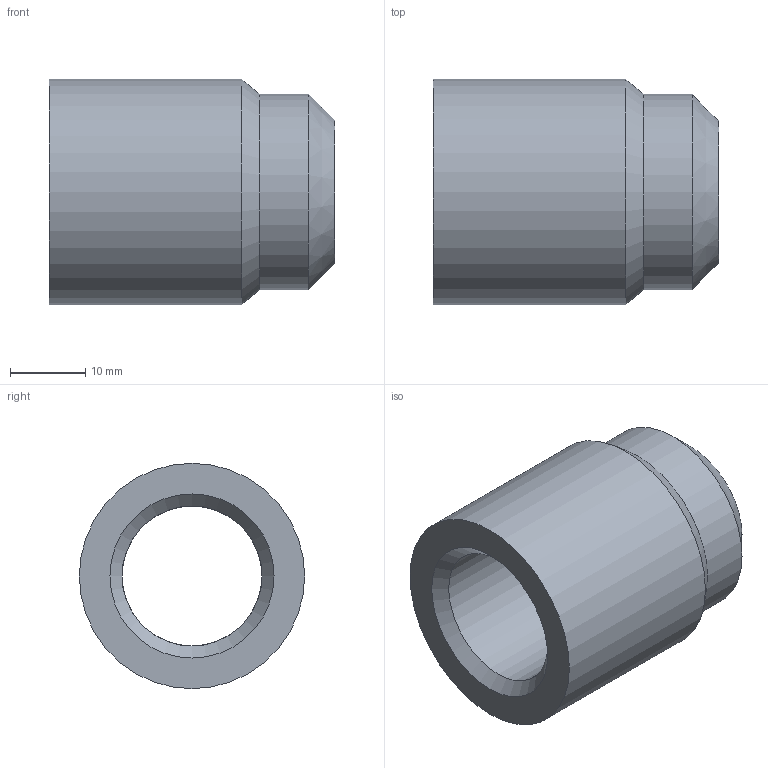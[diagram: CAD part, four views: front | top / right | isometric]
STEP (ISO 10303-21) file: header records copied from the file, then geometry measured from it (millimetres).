
FILE_DESCRIPTION(('TFLEX Exchange Step'),'2;1');
FILE_NAME('X2\0411043E0431044B0448043A0430\X0\ БПБ-G1_2-М01.stp', '2020-10-14T17:39:46+05:00',('Пользователь'),('Unknown organisation'),'TFLEX Exchange 2019.1','T-FLEX CAD','Unknown authorisation');
FILE_SCHEMA( ('AUTOMOTIVE_DESIGN { 1 0 10303 214 1 1 1 1 }') );
Length unit declared in the file: millimetre
Products named in the file (1): Бобышка БПБ-G1_2-М01
Bounding box: 38 x 30 x 30 mm (x, y, z)
Volume: 14010.5 mm3; surface area: 6186.5 mm2
Topology: 1 solids, 1 shells, 10 faces, 23 edges, 16 vertices
Faces by surface type: cylinder 4, plane 3, cone 3
Full cylindrical faces by diameter (mm): 18.6 x1, 18.631 x1, 26 x1, 30 x1
Entity records: 327 total; most frequent: DIRECTION 61, CARTESIAN_POINT 50, ORIENTED_EDGE 46, AXIS2_PLACEMENT_3D 27, EDGE_CURVE 23, VERTEX_POINT 16, CIRCLE 16, EDGE_LOOP 13
